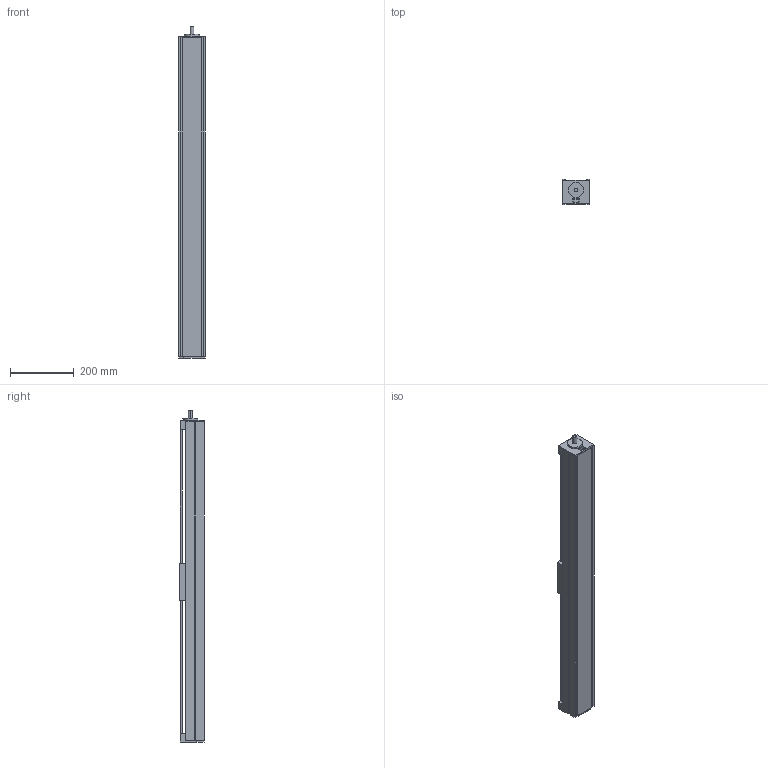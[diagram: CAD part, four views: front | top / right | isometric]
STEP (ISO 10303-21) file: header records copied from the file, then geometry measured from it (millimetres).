
FILE_DESCRIPTION (( 'STEP AP203' ), '1' );
FILE_NAME ('MSX84C-800-LL2020-P7标准面板.STEP', '2013-11-02T03:21:03', ( '微软用户' ), ( '微软中国' ), 'SwSTEP 2.0', 'SolidWorks 2010', '' );
FILE_SCHEMA (( 'CONFIG_CONTROL_DESIGN' ));
Length unit declared in the file: millimetre
Products named in the file (1): MSX84C-800-LL2020-P7梓袧醱啣
Bounding box: 84 x 78 x 1038 mm (x, y, z)
Volume: 2693830.4 mm3; surface area: 731469.8 mm2
Topology: 3 solids, 3 shells, 176 faces, 489 edges, 306 vertices
Faces by surface type: plane 128, cylinder 32, cone 16
Entity records: 5506 total; most frequent: CARTESIAN_POINT 956, ORIENTED_EDGE 946, DIRECTION 891, EDGE_CURVE 473, VECTOR 409, LINE 409, VERTEX_POINT 306, AXIS2_PLACEMENT_3D 241
